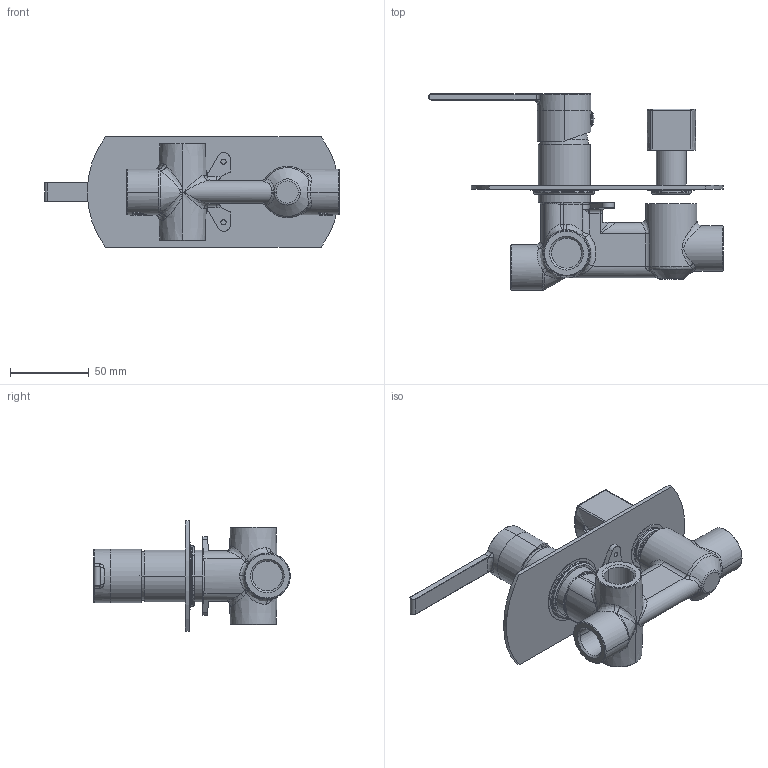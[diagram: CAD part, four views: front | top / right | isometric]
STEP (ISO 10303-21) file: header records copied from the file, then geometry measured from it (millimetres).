
FILE_DESCRIPTION((''),'2;1');
FILE_NAME('65541200_ASM_ASM','2021-10-14T',('RD001'),(''),'PRO/ENGINEER BY PARAMETRIC TECHNOLOGY CORPORATION, 2011310','PRO/ENGINEER BY PARAMETRIC TECHNOLOGY CORPORATION, 2011310','');
FILE_SCHEMA(('CONFIG_CONTROL_DESIGN'));
Products named in the file (18): 5655412-0122SX_2; 513811-0322_1; 61511942_1; 5655411-0200_1; 61816900_1; 513822-0300_1; 60932300_1; 61100112_1; 61800541_1; 60930400_1; MANIFOLD_SOLID_BREP_75577; MANIFOLD_SOLID_BREP_76107; MANIFOLD_SOLID_BREP_76637; 61817800_1_ASM; 61517142_1; 61505742_1; 65541200_ASM_2_ASM; 65541200_ASM_ASM
Assembly tree (17 placements, depth 4):
  65541200_ASM_ASM
    65541200_ASM_2_ASM
      5655412-0122SX_2
      513811-0322_1
      61511942_1
      5655411-0200_1
      61816900_1
      513822-0300_1
      60932300_1
      61100112_1
      61800541_1
      60930400_1
      61817800_1_ASM
        MANIFOLD_SOLID_BREP_75577
        MANIFOLD_SOLID_BREP_76107
        MANIFOLD_SOLID_BREP_76637
      61517142_1
      61505742_1
Bounding box: 187 x 124.7 x 70 mm (x, y, z)
Volume: 179194 mm3; surface area: 85282 mm2
Topology: 15 solids, 15 shells, 1519 faces, 4170 edges, 2721 vertices
Faces by surface type: plane 905, cylinder 280, bspline 173, torus 87, cone 58, sphere 12, extrusion 4
Entity records: 57871 total; most frequent: CARTESIAN_POINT 20760, ORIENTED_EDGE 8312, DIRECTION 6799, EDGE_CURVE 4156, VERTEX_POINT 2721, VECTOR 2311, LINE 2307, AXIS2_PLACEMENT_3D 2244
